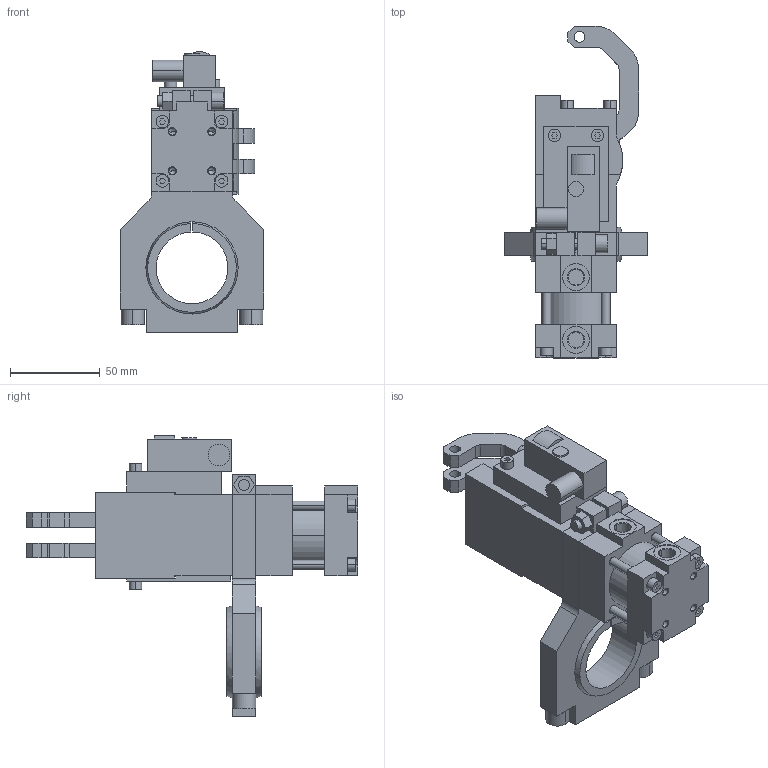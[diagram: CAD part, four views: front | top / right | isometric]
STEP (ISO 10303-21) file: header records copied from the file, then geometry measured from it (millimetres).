
FILE_DESCRIPTION (( 'STEP AP214' ), '1' );
FILE_NAME ('b32_axsx_pla___x_b40.STEP', '2018-05-08T12:47:15', ( 'vepadmin' ), ( 'Hewlett-Packard Company' ), 'SwSTEP 2.0', 'SolidWorks 2018', '' );
FILE_SCHEMA (( 'AUTOMOTIVE_DESIGN' ));
Length unit declared in the file: millimetre
Products named in the file (9): b32_axsx_pla___x_b40; calotta_sferica_40_b32; attacco_b40_b32; gruppo_cilindro_b32; blocchetto_p&f_90; scatola_micro_b32; riparo_micro_b32; leva_b32a_x; gruppo_montante_b32a
Assembly tree (8 placements, depth 2):
  b32_axsx_pla___x_b40
    gruppo_montante_b32a
    leva_b32a_x
    riparo_micro_b32
    scatola_micro_b32
    blocchetto_p&f_90
    gruppo_cilindro_b32
    attacco_b40_b32
    calotta_sferica_40_b32
Bounding box: 80 x 185 x 156.6 mm (x, y, z)
Volume: 385352.7 mm3; surface area: 108346.1 mm2
Topology: 9 solids, 9 shells, 524 faces, 1349 edges, 876 vertices
Faces by surface type: plane 319, cylinder 167, cone 34, sphere 4
Entity records: 16158 total; most frequent: DIRECTION 2765, CARTESIAN_POINT 2728, ORIENTED_EDGE 2648, EDGE_CURVE 1324, VECTOR 953, LINE 953, AXIS2_PLACEMENT_3D 906, VERTEX_POINT 869
